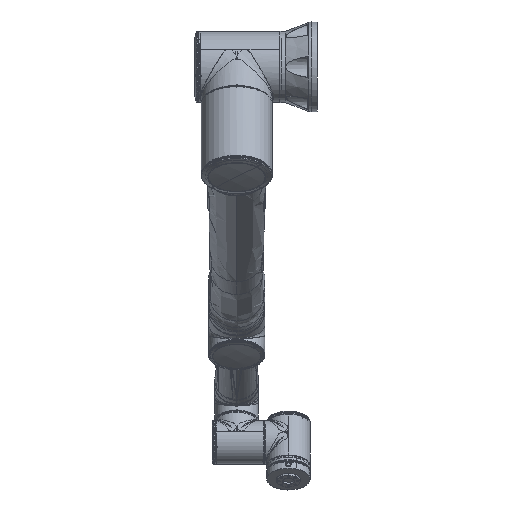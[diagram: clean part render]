
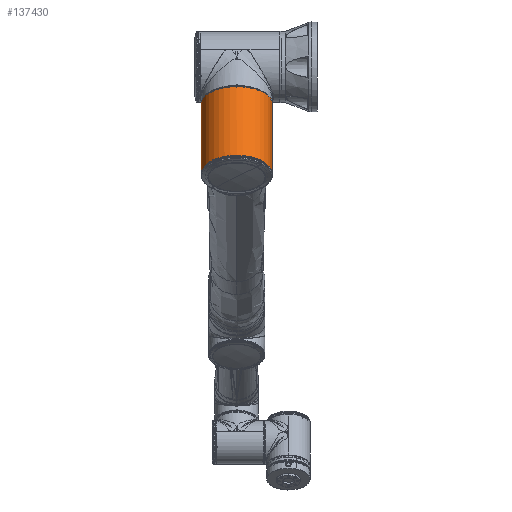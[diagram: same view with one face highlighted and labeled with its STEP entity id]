
A CAD part, left-side view. The second image highlights one B-rep face of the part: STEP entity #137430.
In plain terms, the highlighted cylindrical face has radius 95 mm (diameter 190 mm), a partial arc.
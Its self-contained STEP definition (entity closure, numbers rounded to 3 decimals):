
#3819 = ORIENTED_EDGE ( 'NONE', *, *, #171888, .T. ) ;
#7264 = VERTEX_POINT ( 'NONE', #211489 ) ;
#9439 = VERTEX_POINT ( 'NONE', #47272 ) ;
#12912 = DIRECTION ( 'NONE',  ( 0., 0., 1. ) ) ;
#14711 = LINE ( 'NONE', #162022, #133288 ) ;
#14955 = CIRCLE ( 'NONE', #181888, 95. ) ;
#15614 = CARTESIAN_POINT ( 'NONE',  ( -91.245, -1., 111.9 ) ) ;
#18833 = CARTESIAN_POINT ( 'NONE',  ( 3.75, 0., -102.6 ) ) ;
#22503 = CIRCLE ( 'NONE', #165741, 95. ) ;
#28918 = VECTOR ( 'NONE', #107986, 1000. ) ;
#29298 = DIRECTION ( 'NONE',  ( 0., -1., 0. ) ) ;
#30131 = CARTESIAN_POINT ( 'NONE',  ( 3.75, 0., -102.3 ) ) ;
#38572 = DIRECTION ( 'NONE',  ( 0., 0., -1. ) ) ;
#38730 = EDGE_CURVE ( 'NONE', #138054, #228682, #14711, .T. ) ;
#41557 = CYLINDRICAL_SURFACE ( 'NONE', #77222, 95. ) ;
#45688 = DIRECTION ( 'NONE',  ( 0., 0., -1. ) ) ;
#47272 = CARTESIAN_POINT ( 'NONE',  ( 3.75, -95., -102.3 ) ) ;
#48392 = EDGE_CURVE ( 'NONE', #161364, #77678, #22503, .T. ) ;
#48393 = DIRECTION ( 'NONE',  ( 0., 0., 1. ) ) ;
#50863 = ORIENTED_EDGE ( 'NONE', *, *, #178490, .T. ) ;
#51447 = CARTESIAN_POINT ( 'NONE',  ( 3.75, -95., 114.6 ) ) ;
#53258 = CARTESIAN_POINT ( 'NONE',  ( 3.75, -95., -102.6 ) ) ;
#57823 = ORIENTED_EDGE ( 'NONE', *, *, #38730, .F. ) ;
#63877 = DIRECTION ( 'NONE',  ( 0., 0., -1. ) ) ;
#65364 = FACE_OUTER_BOUND ( 'NONE', #78611, .T. ) ;
#65398 = LINE ( 'NONE', #236269, #211352 ) ;
#66679 = VECTOR ( 'NONE', #107903, 1000. ) ;
#68057 = EDGE_CURVE ( 'NONE', #210829, #161364, #188953, .T. ) ;
#77222 = AXIS2_PLACEMENT_3D ( 'NONE', #18833, #151358, #188720 ) ;
#77678 = VERTEX_POINT ( 'NONE', #244830 ) ;
#77975 = ORIENTED_EDGE ( 'NONE', *, *, #216124, .F. ) ;
#78161 = CARTESIAN_POINT ( 'NONE',  ( 3.75, 95., 0. ) ) ;
#78611 = EDGE_LOOP ( 'NONE', ( #77975, #3819, #134630, #226149, #113420, #133956, #50863, #184277, #169516, #57823 ) ) ;
#80996 = CIRCLE ( 'NONE', #209909, 95. ) ;
#86254 = DIRECTION ( 'NONE',  ( 0., -1., 0. ) ) ;
#96183 = CIRCLE ( 'NONE', #140452, 95. ) ;
#105325 = CARTESIAN_POINT ( 'NONE',  ( 3.75, 0., 114.6 ) ) ;
#107555 = DIRECTION ( 'NONE',  ( 0., 0., -1. ) ) ;
#107903 = DIRECTION ( 'NONE',  ( 0., 0., 1. ) ) ;
#107986 = DIRECTION ( 'NONE',  ( 0., 0., 1. ) ) ;
#113420 = ORIENTED_EDGE ( 'NONE', *, *, #48392, .T. ) ;
#122697 = DIRECTION ( 'NONE',  ( 0., 0., 1. ) ) ;
#127908 = LINE ( 'NONE', #220088, #190188 ) ;
#133288 = VECTOR ( 'NONE', #12912, 1000. ) ;
#133956 = ORIENTED_EDGE ( 'NONE', *, *, #220243, .T. ) ;
#134611 = VERTEX_POINT ( 'NONE', #210257 ) ;
#134630 = ORIENTED_EDGE ( 'NONE', *, *, #210258, .T. ) ;
#137430 = ADVANCED_FACE ( 'NONE', ( #65364 ), #41557, .T. ) ;
#138054 = VERTEX_POINT ( 'NONE', #78161 ) ;
#140452 = AXIS2_PLACEMENT_3D ( 'NONE', #228367, #38572, #229183 ) ;
#143942 = EDGE_CURVE ( 'NONE', #179594, #7264, #65398, .T. ) ;
#146217 = DIRECTION ( 'NONE',  ( 0., 0., 1. ) ) ;
#151358 = DIRECTION ( 'NONE',  ( 0., 0., 1. ) ) ;
#161364 = VERTEX_POINT ( 'NONE', #51447 ) ;
#162022 = CARTESIAN_POINT ( 'NONE',  ( 3.75, 95., -102.6 ) ) ;
#165022 = CARTESIAN_POINT ( 'NONE',  ( 3.75, -95., -102.6 ) ) ;
#165741 = AXIS2_PLACEMENT_3D ( 'NONE', #105325, #45688, #86254 ) ;
#166755 = CARTESIAN_POINT ( 'NONE',  ( 3.75, 95., 114.6 ) ) ;
#169516 = ORIENTED_EDGE ( 'NONE', *, *, #220557, .T. ) ;
#171888 = EDGE_CURVE ( 'NONE', #134611, #9439, #80996, .T. ) ;
#174860 = DIRECTION ( 'NONE',  ( 0., -1., 0. ) ) ;
#176527 = CARTESIAN_POINT ( 'NONE',  ( 3.75, 0., 111.9 ) ) ;
#178490 = EDGE_CURVE ( 'NONE', #215289, #179594, #14955, .T. ) ;
#179178 = VECTOR ( 'NONE', #107555, 1000. ) ;
#179594 = VERTEX_POINT ( 'NONE', #218128 ) ;
#181280 = CARTESIAN_POINT ( 'NONE',  ( -91.245, -1., -102.6 ) ) ;
#181888 = AXIS2_PLACEMENT_3D ( 'NONE', #176527, #63877, #174860 ) ;
#184277 = ORIENTED_EDGE ( 'NONE', *, *, #143942, .T. ) ;
#188146 = LINE ( 'NONE', #165022, #66679 ) ;
#188720 = DIRECTION ( 'NONE',  ( 0., -1., 0. ) ) ;
#188953 = LINE ( 'NONE', #53258, #28918 ) ;
#190188 = VECTOR ( 'NONE', #146217, 1000. ) ;
#208975 = LINE ( 'NONE', #181280, #179178 ) ;
#209909 = AXIS2_PLACEMENT_3D ( 'NONE', #30131, #48393, #29298 ) ;
#210257 = CARTESIAN_POINT ( 'NONE',  ( 3.75, 95., -102.3 ) ) ;
#210258 = EDGE_CURVE ( 'NONE', #9439, #210829, #188146, .T. ) ;
#210829 = VERTEX_POINT ( 'NONE', #223344 ) ;
#211352 = VECTOR ( 'NONE', #122697, 1000. ) ;
#211489 = CARTESIAN_POINT ( 'NONE',  ( -91.245, 1., 114.6 ) ) ;
#215289 = VERTEX_POINT ( 'NONE', #15614 ) ;
#216124 = EDGE_CURVE ( 'NONE', #134611, #138054, #127908, .T. ) ;
#218128 = CARTESIAN_POINT ( 'NONE',  ( -91.245, 1., 111.9 ) ) ;
#220088 = CARTESIAN_POINT ( 'NONE',  ( 3.75, 95., -102.6 ) ) ;
#220243 = EDGE_CURVE ( 'NONE', #77678, #215289, #208975, .T. ) ;
#220557 = EDGE_CURVE ( 'NONE', #7264, #228682, #96183, .T. ) ;
#223344 = CARTESIAN_POINT ( 'NONE',  ( 3.75, -95., 0. ) ) ;
#226149 = ORIENTED_EDGE ( 'NONE', *, *, #68057, .T. ) ;
#228367 = CARTESIAN_POINT ( 'NONE',  ( 3.75, 0., 114.6 ) ) ;
#228682 = VERTEX_POINT ( 'NONE', #166755 ) ;
#229183 = DIRECTION ( 'NONE',  ( 0., -1., 0. ) ) ;
#236269 = CARTESIAN_POINT ( 'NONE',  ( -91.245, 1., -102.6 ) ) ;
#244830 = CARTESIAN_POINT ( 'NONE',  ( -91.245, -1., 114.6 ) ) ;
